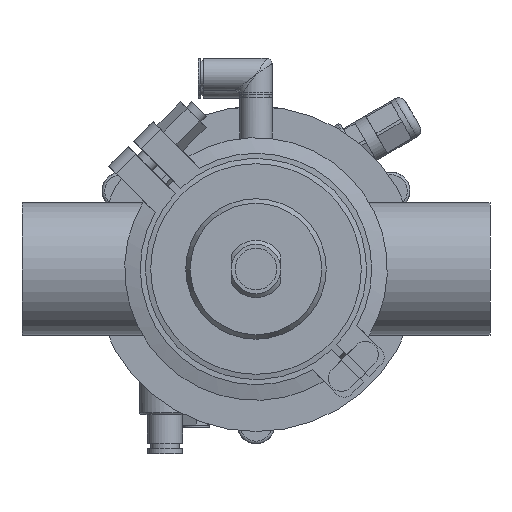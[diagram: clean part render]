
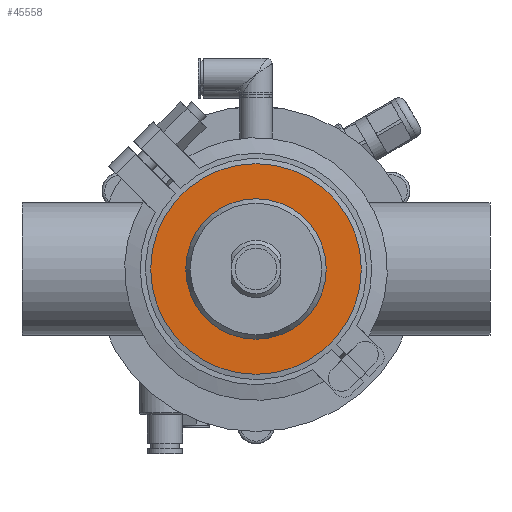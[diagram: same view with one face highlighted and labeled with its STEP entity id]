
A CAD part, front view. The second image highlights one B-rep face of the part: STEP entity #45558.
In plain terms, the highlighted planar face has unit normal (0, -1, 0).
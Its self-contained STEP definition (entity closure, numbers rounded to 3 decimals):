
#4043 = EDGE_CURVE ( 'NONE', #29068, #29068, #48394, .T. ) ;
#4984 = DIRECTION ( 'NONE',  ( 0., 1., 0. ) ) ;
#5564 = AXIS2_PLACEMENT_3D ( 'NONE', #5700, #24948, #40368 ) ;
#5700 = CARTESIAN_POINT ( 'NONE',  ( -40.5, -13., 0. ) ) ;
#5891 = EDGE_LOOP ( 'NONE', ( #54884 ) ) ;
#8057 = AXIS2_PLACEMENT_3D ( 'NONE', #27673, #21740, #8454 ) ;
#8454 = DIRECTION ( 'NONE',  ( 0., 0., 1. ) ) ;
#14061 = VERTEX_POINT ( 'NONE', #53203 ) ;
#14103 = CARTESIAN_POINT ( 'NONE',  ( 0., -13., 0. ) ) ;
#21740 = DIRECTION ( 'NONE',  ( 0., 1., 0. ) ) ;
#22913 = CIRCLE ( 'NONE', #57191, 27. ) ;
#24948 = DIRECTION ( 'NONE',  ( 0., -1., 0. ) ) ;
#25290 = CARTESIAN_POINT ( 'NONE',  ( 0., -13., 40.5 ) ) ;
#25297 = ORIENTED_EDGE ( 'NONE', *, *, #59522, .T. ) ;
#27673 = CARTESIAN_POINT ( 'NONE',  ( 0., -13., 0. ) ) ;
#29068 = VERTEX_POINT ( 'NONE', #25290 ) ;
#31030 = DIRECTION ( 'NONE',  ( 0., 0., 1. ) ) ;
#40368 = DIRECTION ( 'NONE',  ( 0., 0., -1. ) ) ;
#43870 = PLANE ( 'NONE',  #5564 ) ;
#45558 = ADVANCED_FACE ( 'NONE', ( #53668, #59041 ), #43870, .T. ) ;
#48008 = EDGE_LOOP ( 'NONE', ( #25297 ) ) ;
#48394 = CIRCLE ( 'NONE', #8057, 40.5 ) ;
#53203 = CARTESIAN_POINT ( 'NONE',  ( 0., -13., 27. ) ) ;
#53668 = FACE_BOUND ( 'NONE', #48008, .T. ) ;
#54884 = ORIENTED_EDGE ( 'NONE', *, *, #4043, .F. ) ;
#57191 = AXIS2_PLACEMENT_3D ( 'NONE', #14103, #4984, #31030 ) ;
#59041 = FACE_OUTER_BOUND ( 'NONE', #5891, .T. ) ;
#59522 = EDGE_CURVE ( 'NONE', #14061, #14061, #22913, .T. ) ;
